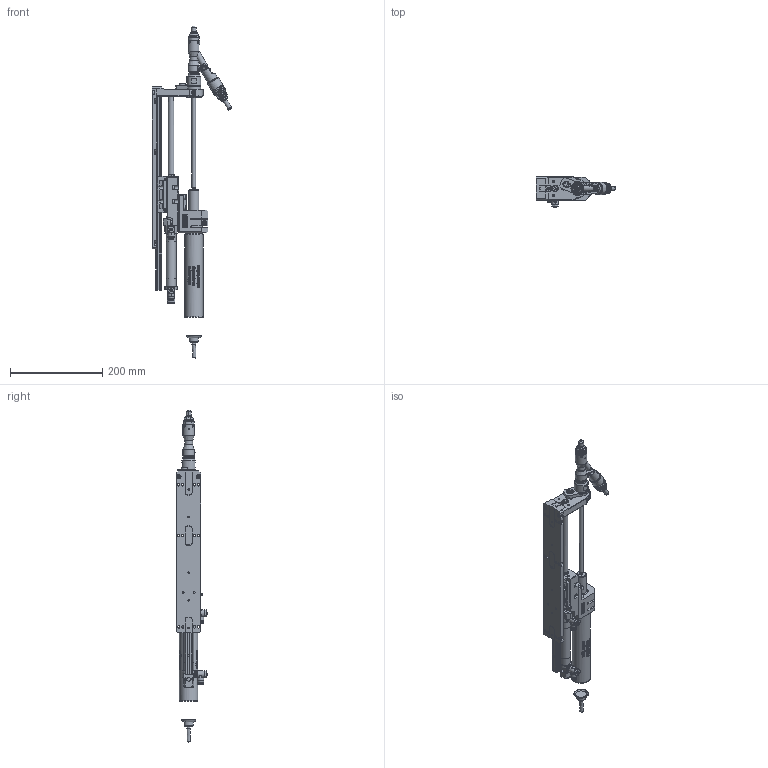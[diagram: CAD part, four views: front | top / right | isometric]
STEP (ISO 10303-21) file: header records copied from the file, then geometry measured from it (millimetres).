
FILE_DESCRIPTION(/* description */ ('© Copyright 2019 – Urheberrechtshinweis Diese CAD-Daten sind urheberrechtlich geschützt. Das Urheberrecht liegt, soweit nicht ausdrücklich anders gekennzeichnet, bei Stöger Automation GmbH. Bitte fragen Sie uns, falls Sie die CAD-Daten vervielfältigen oder','CAx-IF Rec.Pracs.---Representation and Presentation of Product Manufacturing Information (PMI)---4.0---2014-10-13'),/* implementation_level */ '2;1');
FILE_NAME(/* name */ 'H:\00_0 Arbeiten für Marketing\581000\3D_Step_file_automatic_screwdriver_for_screws_SRL21.stp',/* time_stamp */ '2020-07-21T07:51:58+02:00',/* author */ ('Stöger Automation GmbH'),/* organization */ ('Stöger Automation GmbH'),/* preprocessor_version */ 'ST-DEVELOPER v17',/* originating_system */ 'Autodesk Inventor 2018',/* authorisation */ '');
FILE_SCHEMA (('AP242_MANAGED_MODEL_BASED_3D_ENGINEERING_MIM_LF { 1 0 10303 442 1 1 4 }'));
Products named in the file (1): 581000
Bounding box: 172.2 x 66.5 x 718.52 mm (x, y, z)
Volume: 777702.9 mm3; surface area: 328751.9 mm2
Topology: 7 solids, 51 shells, 3869 faces, 10645 edges, 7067 vertices
Faces by surface type: plane 1903, cylinder 893, bspline 614, cone 356, torus 101, sphere 2
Full cylindrical faces by diameter (mm): 2 x1, 2.459 x4, 3 x7, 3.04 x3, 3.2 x3, 3.242 x8, 3.4 x4, 3.5 x2, 3.818 x4, 4 x6, 4.1 x2, 4.134 x20, 4.5 x7, 4.7 x1, 4.917 x11, 5 x8, 5.2 x14, 5.5 x8, 5.8 x1, 6 x17, 6.4 x1, 6.5 x1, 6.6 x5, 6.647 x4, 7 x14, 7.5 x7, 8 x9, 8.5 x7, 8.566 x2, 9 x3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
Entity records: 287984 total; most frequent: CARTESIAN_POINT 189942, ORIENTED_EDGE 21198, DIRECTION 17570, EDGE_CURVE 10599, VERTEX_POINT 7071, AXIS2_PLACEMENT_3D 6173, LINE 5224, VECTOR 5224
